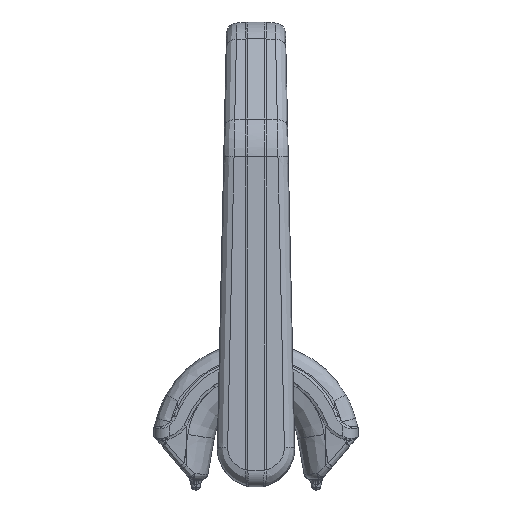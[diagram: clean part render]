
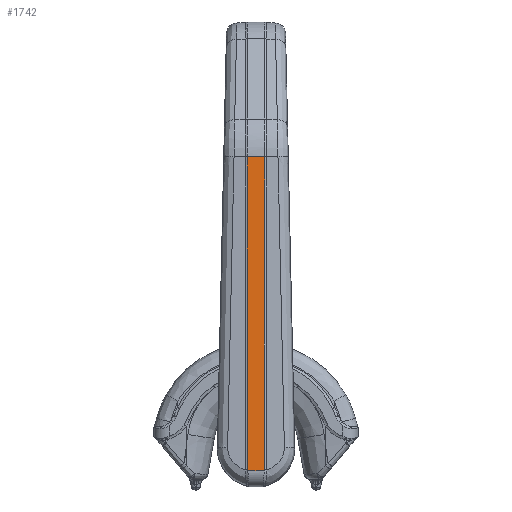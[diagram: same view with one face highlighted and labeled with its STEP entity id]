
A CAD part, front view. The second image highlights one B-rep face of the part: STEP entity #1742.
In plain terms, the highlighted planar face has unit normal (0, -0.999, 0.041).
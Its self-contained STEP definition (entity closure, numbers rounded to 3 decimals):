
#1617=CARTESIAN_POINT('',(-3.771,-95.994,-11.712)
);
#1618=VERTEX_POINT('Vertex786',#1617);
#1635=CARTESIAN_POINT('',(3.771,-95.994,-11.712)
);
#1636=VERTEX_POINT('Vertex787',#1635);
#1652=CARTESIAN_POINT('',(0.,-95.994,
-11.712));
#1653=DIRECTION('',(1.,0.,0.));
#1654=VECTOR('',#1653,1.);
#1655=LINE('nurbsCrv1249',#1652,#1654);
#1656=EDGE_CURVE('Edge1249',#1618,#1636,#1655,.T.);
#1666=CARTESIAN_POINT('',(-3.792,-95.974,-11.216)
);
#1667=VERTEX_POINT('Vertex788',#1666);
#1668=CARTESIAN_POINT('',(-3.792,-95.974,-11.216)
);
#1669=CARTESIAN_POINT('',(-3.791,-95.977,-11.305)
);
#1670=CARTESIAN_POINT('',(-3.789,-95.981,-11.393
));
#1671=CARTESIAN_POINT('',(-3.782,-95.988,-11.558
));
#1672=CARTESIAN_POINT('',(-3.777,-95.991,-11.635
));
#1673=CARTESIAN_POINT('',(-3.771,-95.994,-11.712)
);
#1674=B_SPLINE_CURVE_WITH_KNOTS('nurbsCrv1250',3,(#1668,#1669,#1670,#1671,#1672
,#1673),.UNSPECIFIED.,.F.,.F.,(4,2,4),(-0.547,-0.281,
-0.05),.UNSPECIFIED.);
#1675=EDGE_CURVE('Edge1250',#1667,#1618,#1674,.T.);
#1676=ORIENTED_EDGE('Edgeuse2380',*,*,#1675,.T.);
#1677=ORIENTED_EDGE('Edgeuse2381',*,*,#1656,.T.);
#1678=CARTESIAN_POINT('',(3.792,-95.974,-11.216)
);
#1679=VERTEX_POINT('Vertex789',#1678);
#1680=CARTESIAN_POINT('',(3.771,-95.994,-11.712)
);
#1681=CARTESIAN_POINT('',(3.777,-95.991,-11.638)
);
#1682=CARTESIAN_POINT('',(3.781,-95.988,-11.565)
);
#1683=CARTESIAN_POINT('',(3.789,-95.981,-11.4)
);
#1684=CARTESIAN_POINT('',(3.791,-95.977,-11.308));
#1685=CARTESIAN_POINT('',(3.792,-95.974,-11.216)
);
#1686=B_SPLINE_CURVE_WITH_KNOTS('nurbsCrv1251',3,(#1680,#1681,#1682,#1683,#1684
,#1685),.UNSPECIFIED.,.F.,.F.,(4,2,4),(-0.497,-0.277,0.
),.UNSPECIFIED.);
#1687=EDGE_CURVE('Edge1251',#1636,#1679,#1686,.T.);
#1688=ORIENTED_EDGE('Edgeuse2382',*,*,#1687,.T.);
#1689=CARTESIAN_POINT('',(4.059,-90.03,132.889));
#1690=VERTEX_POINT('Vertex790',#1689);
#1691=CARTESIAN_POINT('',(5.,-151.266,-1351.736)
);
#1692=DIRECTION('',(0.,0.999,
-0.041));
#1693=DIRECTION('',(0.,0.041,0.999)
);
#1694=AXIS2_PLACEMENT_3D('',#1691,#1692,#1693);
#1695=ELLIPSE('nurbsCrv1252',#1694,1683.775,2.);
#1696=EDGE_CURVE('Edge1252',#1679,#1690,#1695,.T.);
#1697=ORIENTED_EDGE('Edgeuse2383',*,*,#1696,.T.);
#1698=CARTESIAN_POINT('',(4.059,-90.025,133.011));
#1699=VERTEX_POINT('Vertex791',#1698);
#1700=CARTESIAN_POINT('',(4.059,-90.03,132.889));
#1701=CARTESIAN_POINT('',(4.059,-90.029,132.899)
);
#1702=CARTESIAN_POINT('',(4.059,-90.029,132.909));
#1703=CARTESIAN_POINT('',(4.059,-90.027,132.95)
);
#1704=CARTESIAN_POINT('',(4.059,-90.026,132.98));
#1705=CARTESIAN_POINT('',(4.059,-90.025,133.011));
#1706=B_SPLINE_CURVE_WITH_KNOTS('nurbsCrv1253',3,(#1700,#1701,#1702,#1703,#1704
,#1705),.UNSPECIFIED.,.F.,.F.,(4,2,4),(28.921,28.952,
29.043),.UNSPECIFIED.);
#1707=EDGE_CURVE('Edge1253',#1690,#1699,#1706,.T.);
#1708=ORIENTED_EDGE('Edgeuse2384',*,*,#1707,.T.);
#1709=CARTESIAN_POINT('',(-4.059,-90.025,133.011)
);
#1710=VERTEX_POINT('Vertex792',#1709);
#1711=CARTESIAN_POINT('',(0.,-90.025,133.011));
#1712=DIRECTION('',(1.,0.,0.));
#1713=VECTOR('',#1712,1.);
#1714=LINE('nurbsCrv1254',#1711,#1713);
#1715=EDGE_CURVE('Edge1254',#1710,#1699,#1714,.T.);
#1716=ORIENTED_EDGE('Edgeuse2385',*,*,#1715,.F.);
#1717=CARTESIAN_POINT('',(-4.059,-90.03,132.889));
#1718=VERTEX_POINT('Vertex793',#1717);
#1719=CARTESIAN_POINT('',(-4.059,-90.025,133.011)
);
#1720=CARTESIAN_POINT('',(-4.059,-90.026,132.98)
);
#1721=CARTESIAN_POINT('',(-4.059,-90.027,132.95)
);
#1722=CARTESIAN_POINT('',(-4.059,-90.029,132.909)
);
#1723=CARTESIAN_POINT('',(-4.059,-90.029,132.899)
);
#1724=CARTESIAN_POINT('',(-4.059,-90.03,132.889));
#1725=B_SPLINE_CURVE_WITH_KNOTS('nurbsCrv1255',3,(#1719,#1720,#1721,#1722,#1723
,#1724),.UNSPECIFIED.,.F.,.F.,(4,2,4),(28.861,28.952,
28.983),.UNSPECIFIED.);
#1726=EDGE_CURVE('Edge1255',#1710,#1718,#1725,.T.);
#1727=ORIENTED_EDGE('Edgeuse2386',*,*,#1726,.T.);
#1728=CARTESIAN_POINT('',(-5.,-151.266,-1351.736)
);
#1729=DIRECTION('',(0.,0.999,
-0.041));
#1730=DIRECTION('',(0.,0.041,0.999));
#1731=AXIS2_PLACEMENT_3D('',#1728,#1729,#1730);
#1732=ELLIPSE('nurbsCrv1256',#1731,1683.775,2.);
#1733=EDGE_CURVE('Edge1256',#1718,#1667,#1732,.T.);
#1734=ORIENTED_EDGE('Edgeuse2387',*,*,#1733,.T.);
#1735=EDGE_LOOP('',(#1676,#1677,#1688,#1697,#1708,#1716,#1727,#1734));
#1736=FACE_OUTER_BOUND('',#1735,.T.);
#1737=CARTESIAN_POINT('',(0.141,-93.009,60.661)
);
#1738=DIRECTION('',(0.,-0.999,0.041
));
#1739=DIRECTION('',(0.041,-0.041,-0.998)
);
#1740=AXIS2_PLACEMENT_3D('',#1737,#1738,#1739);
#1741=PLANE('nurbsSrf480',#1740);
#1742=ADVANCED_FACE('Face480',(#1736),#1741,.T.);
